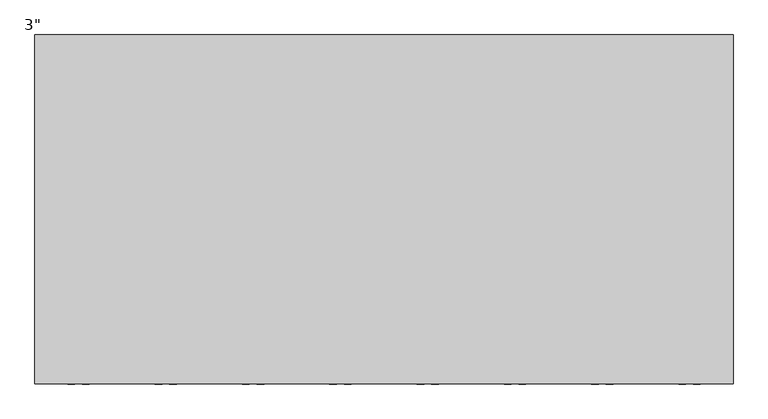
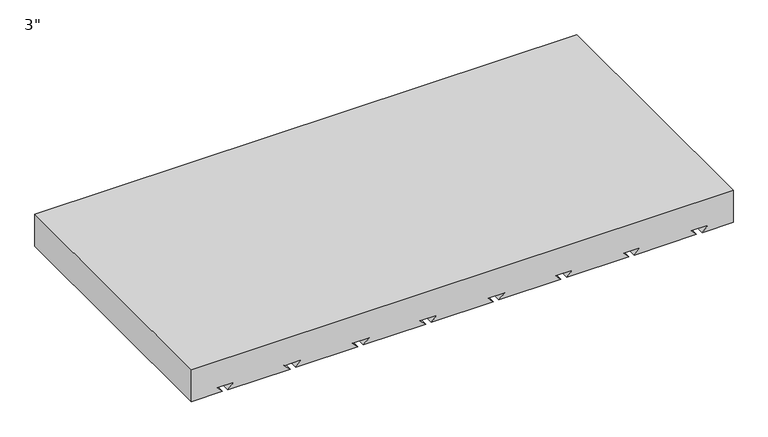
"""IFC4 building model written with IfcOpenShell, lengths in millimetres: proxy geometry."""

from ifc_helpers import new_model, si_unit, frame, origin, place, context, project, spatial, polyline, outline, extrude, source, transform, mapped, element, save


def proxy_59e8fef8(model_context):
    return source(origin(), model_context, "Body", "SweptSolid", [
        extrude(outline(polyline([(0.0, 609.6), (76.2, 609.6), (76.2, -609.6), (0.0, -609.6), (0.0, -539.75), (12.7, -552.45), (12.7, -514.35), (0.0, -527.05), (0.0, -387.35), (12.7, -400.05), (12.7, -361.95), (0.0, -374.65), (0.0, -234.95), (12.7, -247.65), (12.7, -209.55), (0.0, -222.25), (0.0, -82.55), (12.7, -95.25), (12.7, -57.15), (0.0, -69.85), (0.0, 69.85), (12.7, 57.15), (12.7, 95.25), (0.0, 82.55), (0.0, 222.25), (12.7, 209.55), (12.7, 247.65), (0.0, 234.95), (0.0, 374.65), (12.7, 361.95), (12.7, 400.05), (0.0, 387.35), (0.0, 527.05), (12.7, 514.35), (12.7, 552.45), (0.0, 539.75), (0.0, 609.6)])), frame((0.0, -304.8, 0.0), z_axis=(0.0, 1.0, 0.0), x_axis=(0.0, 0.0, 1.0)), (0.0, 0.0, 1.0), 609.6),
    ])


if __name__ == "__main__":
    model = new_model("IFC4")
    model_context = context("Model", 3, world=origin())
    ifc_project = project(units=[si_unit("LENGTHUNIT", "METRE", prefix="MILLI")], contexts=[model_context])
    site = spatial("IfcSite", under=ifc_project)
    building = spatial("IfcBuilding", under=site)
    placement = place(None, origin())
    proxy_shape = proxy_59e8fef8(model_context)
    element("IfcBuildingElementProxy", 1, Name="Durabond Generic Model Flexlite Insulation Board : 3\"", ObjectType="Durabond Generic Model Flexlite Insulation Board : 3\"", at=placement, inside=building, context=model_context, shape_type="MappedRepresentation", body=[
        mapped(proxy_shape, transform((0.0, 0.0, 0.0), x_axis=(1.0, 0.0, 0.0), y_axis=(0.0, 1.0, 0.0), z_axis=(0.0, 0.0, 1.0))),
    ])
    save(model, "model.ifc")
